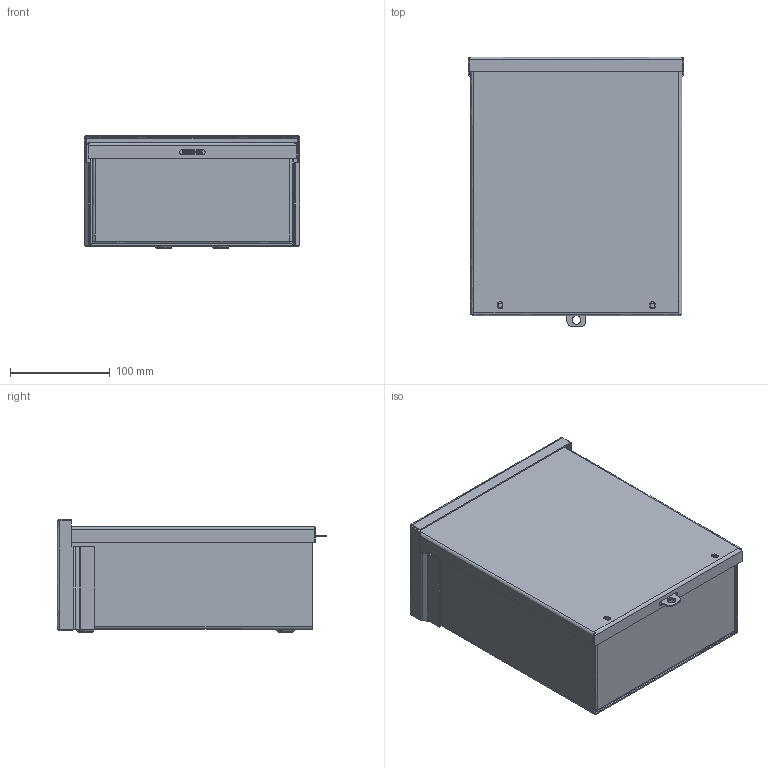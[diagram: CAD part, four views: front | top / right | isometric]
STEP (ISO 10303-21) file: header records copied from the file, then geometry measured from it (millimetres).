
FILE_DESCRIPTION((''),'2;1');
FILE_NAME('D:\scratch\ideas\a10r84nk.stp','2006-12-19T10:33:04',( 'User'),('SDRC'),'I-DEAS Master Series 9','UNIX','Yes');
FILE_SCHEMA(('AUTOMOTIVE_DESIGN { 1 0 10303 214 0 1 1 1 }'));
Length unit declared in the file: inch
Products named in the file (7): 13485; 3rsc_wmt_body_10x8x4_nk; 3rsc_top_8x4; 3rsc_bottom_8x4_nk; 3rsc_body_10x8x4; 3rsc_cover_10x8; 78124001
Assembly tree (6 placements, depth 3):
  13485
    3rsc_wmt_body_10x8x4_nk
      3rsc_top_8x4
      3rsc_bottom_8x4_nk
      3rsc_body_10x8x4
    3rsc_cover_10x8
    78124001
Bounding box: 215.9 x 269.95 x 113.03 mm (x, y, z)
Volume: 327640.5 mm3; surface area: 475242.4 mm2
Topology: 5 solids, 5 shells, 239 faces, 615 edges, 392 vertices
Faces by surface type: bspline 239
Entity records: 7574 total; most frequent: CARTESIAN_POINT 3603, ORIENTED_EDGE 1230, EDGE_CURVE 615, VERTEX_POINT 392, QUASI_UNIFORM_CURVE 308, EDGE_LOOP 273, FACE_OUTER_BOUND 239, ADVANCED_FACE 239
